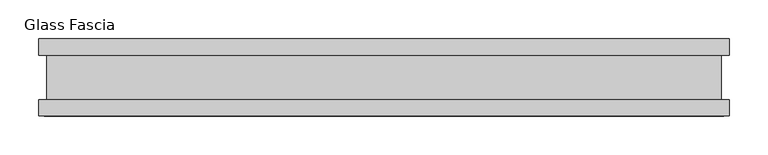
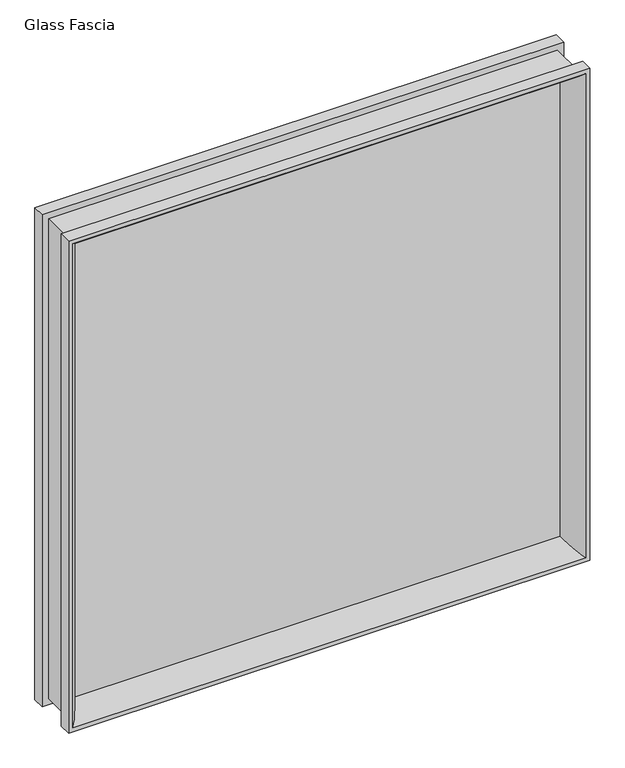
"""IFC4 building model written with IfcOpenShell, lengths in millimetres: proxy geometry, Panel-Fascia-Teknion-Altos-Glass : Glass Fascia."""

from ifc_helpers import new_model, si_unit, frame, origin, place, context, project, spatial, polyline, ellipse_curve, outline, extrude, source, transform, mapped, element, save
from ifc_brep_helpers import plane_surface, cylinder_surface, advanced_brep


def glass_fascia_75a64c95(model_context):
    return source(origin(), model_context, "Body", "SolidModel", [
        advanced_brep(
        [(422.1144089, 5.0827449, 870.3973332), (440.0692593, 50.0558594, 888.3521836), (440.0692593, 50.0558594, 10.1728164), (422.1144089, 5.0827449, 28.1276668), (432.6046, -5.0827449, 880.8875243), (432.6046, 5.0827449, 880.8875243), (432.6046, 5.0827449, 17.6374757), (432.6046, -5.0827449, 17.6374757), (440.0692593, -50.0558594, 888.3521836), (422.1144089, -5.0827449, 870.3973332), (422.1144089, -5.0827449, 28.1276668), (440.0692593, -50.0558594, 10.1728164), (447.0670757, -28.8801202, 895.35), (447.0670757, -50.0558594, 895.35), (447.0670757, -50.0558594, 3.175), (447.0670757, -28.8801202, 3.175), (436.2420758, 28.2698798, 884.5250001), (436.2420758, -28.8801202, 884.5250001), (436.2420758, -28.8801202, 13.9999999), (436.2420758, 28.2698798, 13.9999999), (447.0670757, 50.0558594, 895.35), (447.0670757, 28.2698798, 895.35), (447.0670757, 28.2698798, 3.175), (447.0670757, 50.0558594, 3.175), (-440.0692593, 50.0558594, 10.1728164), (-422.1144089, 5.0827449, 28.1276668), (-432.6046, 5.0827449, 17.6374757), (-432.6046, -5.0827449, 17.6374757), (-422.1144089, -5.0827449, 28.1276668), (-440.0692593, -50.0558594, 10.1728164), (-447.0670757, -50.0558594, 3.175), (-447.0670757, -28.8801202, 3.175), (-436.2420758, -28.8801202, 13.9999999), (-436.2420758, 28.2698798, 13.9999999), (-447.0670757, 28.2698798, 3.175), (-447.0670757, 50.0558594, 3.175), (-440.0692593, 50.0558594, 888.3521836), (-422.1144089, 5.0827449, 870.3973332), (-432.6046, 5.0827449, 880.8875243), (-432.6046, -5.0827449, 880.8875243), (-422.1144089, -5.0827449, 870.3973332), (-440.0692593, -50.0558594, 888.3521836), (-447.0670757, -50.0558594, 895.35), (-447.0670757, -28.8801202, 895.35), (-436.2420758, -28.8801202, 884.5250001), (-436.2420758, 28.2698798, 884.5250001), (-447.0670757, 28.2698798, 895.35), (-447.0670757, 50.0558594, 895.35)],
        [
            (0, 1, ellipse_curve(frame((474.2006463, 10.3587469, 922.4835705), z_axis=(0.7071067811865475, 0.0, -0.7071067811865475), x_axis=(0.7071067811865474, 0.0, 0.7071067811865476)), 74.0379946, 52.352768)),
            (1, 2),
            (2, 3, ellipse_curve(frame((474.2006463, 10.3587469, -23.9585705), z_axis=(0.7071067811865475, 0.0, 0.7071067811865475), x_axis=(-0.7071067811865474, 0.0, 0.7071067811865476)), 74.0379946, 52.352768)),
            (3, 0),
            (4, 5),
            (5, 6),
            (6, 7),
            (7, 4),
            (8, 9, ellipse_curve(frame((474.2006463, -10.3587469, 922.4835705), z_axis=(0.7071067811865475, 0.0, -0.7071067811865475), x_axis=(0.7071067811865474, 0.0, 0.7071067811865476)), 74.0379946, 52.352768)),
            (9, 10),
            (10, 11, ellipse_curve(frame((474.2006463, -10.3587469, -23.9585705), z_axis=(0.7071067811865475, 0.0, 0.7071067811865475), x_axis=(-0.7071067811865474, 0.0, 0.7071067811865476)), 74.0379946, 52.352768)),
            (11, 8),
            (12, 13),
            (13, 14),
            (14, 15),
            (15, 12),
            (16, 17),
            (17, 18),
            (18, 19),
            (19, 16),
            (20, 21),
            (21, 22),
            (22, 23),
            (23, 20),
            (2, 24),
            (24, 25, ellipse_curve(frame((-474.2006463, 10.3587469, -23.9585705), z_axis=(0.7071067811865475, 0.0, -0.7071067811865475), x_axis=(0.7071067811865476, 0.0, 0.7071067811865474)), 74.0379946, 52.352768)),
            (25, 3),
            (6, 26),
            (26, 27),
            (27, 7),
            (10, 28),
            (28, 29, ellipse_curve(frame((-474.2006463, -10.3587469, -23.9585705), z_axis=(0.7071067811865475, 0.0, -0.7071067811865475), x_axis=(0.7071067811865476, 0.0, 0.7071067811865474)), 74.0379946, 52.352768)),
            (29, 11),
            (14, 30),
            (30, 31),
            (31, 15),
            (18, 32),
            (32, 33),
            (33, 19),
            (22, 34),
            (34, 35),
            (35, 23),
            (24, 36),
            (36, 37, ellipse_curve(frame((-474.2006463, 10.3587469, 922.4835705), z_axis=(-0.7071067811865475, 0.0, -0.7071067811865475), x_axis=(0.7071067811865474, 0.0, -0.7071067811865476)), 74.0379946, 52.352768)),
            (37, 25),
            (26, 38),
            (38, 39),
            (39, 27),
            (28, 40),
            (40, 41, ellipse_curve(frame((-474.2006463, -10.3587469, 922.4835705), z_axis=(-0.7071067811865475, 0.0, -0.7071067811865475), x_axis=(0.7071067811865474, 0.0, -0.7071067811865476)), 74.0379946, 52.352768)),
            (41, 29),
            (30, 42),
            (42, 43),
            (43, 31),
            (32, 44),
            (44, 45),
            (45, 33),
            (34, 46),
            (46, 47),
            (47, 35),
            (47, 20),
            (1, 36),
            (0, 37),
            (5, 38),
            (4, 39),
            (9, 40),
            (8, 41),
            (13, 42),
            (12, 43),
            (17, 44),
            (16, 45),
            (21, 46),
        ],
        [
            cylinder_surface(frame((474.2006463, 10.3587469, 895.35), z_axis=(0.0, 0.0, 1.0), x_axis=(1.0, 0.0, 0.0)), 52.352768),
            plane_surface(frame((432.6046, 5.0827449, 880.8875243), z_axis=(-1.0, 0.0, 0.0), x_axis=(0.0, 0.0, -1.0))),
            cylinder_surface(frame((474.2006463, -10.3587469, 895.35), z_axis=(0.0, 0.0, 1.0), x_axis=(1.0, 0.0, 0.0)), 52.352768),
            plane_surface(frame((447.0670757, -50.0558594, 895.35), z_axis=(1.0, 0.0, 0.0), x_axis=(0.0, 0.0, -1.0))),
            plane_surface(frame((436.2420758, -28.8801202, 884.5250001), z_axis=(1.0, 0.0, 0.0), x_axis=(0.0, 0.0, -1.0))),
            plane_surface(frame((447.0670757, 28.2698798, 895.35), z_axis=(1.0, 0.0, 0.0), x_axis=(0.0, 0.0, -1.0))),
            cylinder_surface(frame((447.0670757, 10.3587469, -23.9585705), z_axis=(1.0, 0.0, 0.0), x_axis=(0.0, 0.0, -1.0)), 52.352768),
            plane_surface(frame((432.6046, 5.0827449, 17.6374757), z_axis=(0.0, 0.0, 1.0), x_axis=(-1.0, 0.0, 0.0))),
            cylinder_surface(frame((447.0670757, -10.3587469, -23.9585705), z_axis=(1.0, 0.0, 0.0), x_axis=(0.0, 0.0, -1.0)), 52.352768),
            plane_surface(frame((447.0670757, -50.0558594, 3.175), z_axis=(0.0, 0.0, -1.0), x_axis=(-1.0, 0.0, 0.0))),
            plane_surface(frame((436.2420758, -28.8801202, 13.9999999), z_axis=(0.0, 0.0, -1.0), x_axis=(-1.0, 0.0, 0.0))),
            plane_surface(frame((447.0670757, 28.2698798, 3.175), z_axis=(0.0, 0.0, -1.0), x_axis=(-1.0, 0.0, 0.0))),
            cylinder_surface(frame((-474.2006463, 10.3587469, 3.175), z_axis=(0.0, 0.0, -1.0), x_axis=(-1.0, 0.0, 0.0)), 52.352768),
            plane_surface(frame((-432.6046, 5.0827449, 17.6374757), z_axis=(1.0, 0.0, 0.0), x_axis=(0.0, 0.0, 1.0))),
            cylinder_surface(frame((-474.2006463, -10.3587469, 3.175), z_axis=(0.0, 0.0, -1.0), x_axis=(-1.0, 0.0, 0.0)), 52.352768),
            plane_surface(frame((-447.0670757, -50.0558594, 3.175), z_axis=(-1.0, 0.0, 0.0), x_axis=(0.0, 0.0, 1.0))),
            plane_surface(frame((-436.2420758, -28.8801202, 13.9999999), z_axis=(-1.0, 0.0, 0.0), x_axis=(0.0, 0.0, 1.0))),
            plane_surface(frame((-447.0670757, 28.2698798, 3.175), z_axis=(-1.0, 0.0, 0.0), x_axis=(0.0, 0.0, 1.0))),
            plane_surface(frame((-447.0670757, 50.0558594, 895.35), z_axis=(0.0, 1.0, 0.0), x_axis=(1.0, 0.0, 0.0))),
            cylinder_surface(frame((-447.0670757, 10.3587469, 922.4835705), z_axis=(-1.0, 0.0, 0.0), x_axis=(0.0, 0.0, 1.0)), 52.352768),
            plane_surface(frame((-422.1144089, 5.0827449, 870.3973332), z_axis=(0.0, -1.0, 0.0), x_axis=(1.0, 0.0, 0.0))),
            plane_surface(frame((-432.6046, 5.0827449, 880.8875243), z_axis=(0.0, 0.0, -1.0), x_axis=(1.0, 0.0, 0.0))),
            plane_surface(frame((-432.6046, -5.0827449, 880.8875243), z_axis=(0.0, 1.0, 0.0), x_axis=(1.0, 0.0, 0.0))),
            cylinder_surface(frame((-447.0670757, -10.3587469, 922.4835705), z_axis=(-1.0, 0.0, 0.0), x_axis=(0.0, 0.0, 1.0)), 52.352768),
            plane_surface(frame((-440.0692593, -50.0558594, 888.3521836), z_axis=(0.0, -1.0, 0.0), x_axis=(1.0, 0.0, 0.0))),
            plane_surface(frame((-447.0670757, -50.0558594, 895.35), z_axis=(0.0, 0.0, 1.0), x_axis=(1.0, 0.0, 0.0))),
            plane_surface(frame((-447.0670757, -28.8801202, 895.35), z_axis=(0.0, 1.0, 0.0), x_axis=(1.0, 0.0, 0.0))),
            plane_surface(frame((-436.2420758, -28.8801202, 884.5250001), z_axis=(0.0, 0.0, 1.0), x_axis=(1.0, 0.0, 0.0))),
            plane_surface(frame((-436.2420758, 28.2698798, 884.5250001), z_axis=(0.0, -1.0, 0.0), x_axis=(1.0, 0.0, 0.0))),
            plane_surface(frame((-447.0670757, 28.2698798, 895.35), z_axis=(0.0, 0.0, 1.0), x_axis=(1.0, 0.0, 0.0))),
        ],
        [
            (0, [[1, 2, 3, 4]]),
            (1, [[5, 6, 7, 8]]),
            (2, [[9, 10, 11, 12]]),
            (3, [[13, 14, 15, 16]]),
            (4, [[17, 18, 19, 20]]),
            (5, [[21, 22, 23, 24]]),
            (6, [[-3, 25, 26, 27]]),
            (7, [[-7, 28, 29, 30]]),
            (8, [[-11, 31, 32, 33]]),
            (9, [[-15, 34, 35, 36]]),
            (10, [[-19, 37, 38, 39]]),
            (11, [[-23, 40, 41, 42]]),
            (12, [[-26, 43, 44, 45]]),
            (13, [[-29, 46, 47, 48]]),
            (14, [[-32, 49, 50, 51]]),
            (15, [[-35, 52, 53, 54]]),
            (16, [[-38, 55, 56, 57]]),
            (17, [[-41, 58, 59, 60]]),
            (18, [[-42, -60, 61, -24], [62, -43, -25, -2]]),
            (19, [[-44, -62, -1, 63]]),
            (20, [[64, -46, -28, -6], [-27, -45, -63, -4]]),
            (21, [[-47, -64, -5, 65]]),
            (22, [[-30, -48, -65, -8], [66, -49, -31, -10]]),
            (23, [[-50, -66, -9, 67]]),
            (24, [[68, -52, -34, -14], [-33, -51, -67, -12]]),
            (25, [[-53, -68, -13, 69]]),
            (26, [[-36, -54, -69, -16], [70, -55, -37, -18]]),
            (27, [[-56, -70, -17, 71]]),
            (28, [[72, -58, -40, -22], [-39, -57, -71, -20]]),
            (29, [[-59, -72, -21, -61]]),
        ],
    ),
        extrude(outline(polyline([(432.6046, 2.9765625), (432.6046, -2.9765625), (-432.6046, -2.9765625), (-432.6046, 2.9765625), (432.6046, 2.9765625)])), frame((0.0, 0.0, 17.6374757), z_axis=(0.0, 0.0, 1.0), x_axis=(1.0, 0.0, 0.0)), (0.0, 0.0, 1.0), 863.2500485),
    ])


if __name__ == "__main__":
    model = new_model("IFC4")
    model_context = context("Model", 3, world=origin())
    ifc_project = project(units=[si_unit("LENGTHUNIT", "METRE", prefix="MILLI")], contexts=[model_context])
    site = spatial("IfcSite", under=ifc_project)
    building = spatial("IfcBuilding", under=site)
    placement = place(None, origin())
    glass_fascia_shape = glass_fascia_75a64c95(model_context)
    element("IfcBuildingElementProxy", 1, Name="Panel-Fascia-Teknion-Altos-Glass : Glass Fascia", ObjectType="Panel-Fascia-Teknion-Altos-Glass : Glass Fascia", at=placement, inside=building, context=model_context, shape_type="MappedRepresentation", body=[
        mapped(glass_fascia_shape, transform((0.0, 0.0, 0.0), x_axis=(1.0, 0.0, 0.0), y_axis=(0.0, 1.0, 0.0), z_axis=(0.0, 0.0, 1.0))),
    ])
    save(model, "model.ifc")
